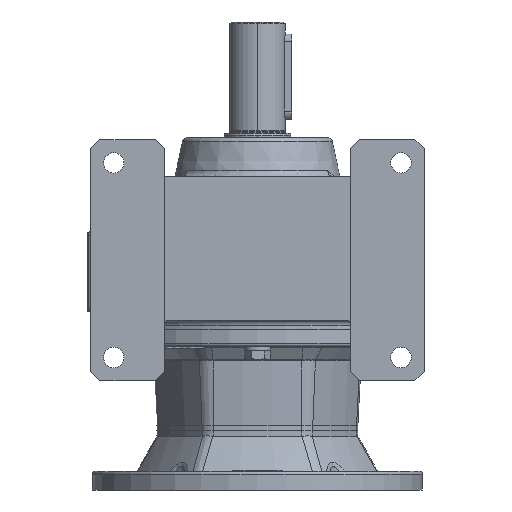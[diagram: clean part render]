
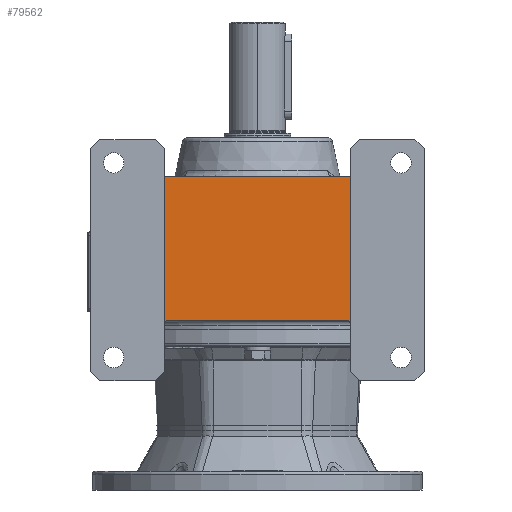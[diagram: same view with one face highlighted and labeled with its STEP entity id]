
A CAD part, front view. The second image highlights one B-rep face of the part: STEP entity #79562.
In plain terms, the highlighted planar face has unit normal (0, -1, 0).
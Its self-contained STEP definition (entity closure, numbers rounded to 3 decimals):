
#4549 = CIRCLE ( 'NONE', #6875, 3. ) ;
#5019 = CIRCLE ( 'NONE', #6863, 3. ) ;
#6862 = VECTOR ( 'NONE', #65327, 1000. ) ;
#6863 = AXIS2_PLACEMENT_3D ( 'NONE', #65269, #65273, #65274 ) ;
#6871 = VECTOR ( 'NONE', #65272, 1000. ) ;
#6872 = VECTOR ( 'NONE', #65286, 1000. ) ;
#6874 = VECTOR ( 'NONE', #65278, 1000. ) ;
#6875 = AXIS2_PLACEMENT_3D ( 'NONE', #65275, #65279, #65280 ) ;
#26970 = EDGE_CURVE ( 'NONE', #48518, #30989, #65270, .T. ) ;
#26971 = EDGE_CURVE ( 'NONE', #48518, #30991, #5019, .T. ) ;
#26972 = EDGE_CURVE ( 'NONE', #53535, #48525, #65276, .T. ) ;
#26973 = EDGE_CURVE ( 'NONE', #48527, #48525, #4549, .T. ) ;
#26975 = EDGE_CURVE ( 'NONE', #53535, #30989, #65284, .T. ) ;
#26984 = EDGE_CURVE ( 'NONE', #30991, #48527, #65325, .T. ) ;
#30989 = VERTEX_POINT ( 'NONE', #78103 ) ;
#30991 = VERTEX_POINT ( 'NONE', #78106 ) ;
#37996 = PLANE ( 'NONE',  #71682 ) ;
#37998 = CARTESIAN_POINT ( 'NONE',  ( -193.636, -135., -165. ) ) ;
#38000 = DIRECTION ( 'NONE',  ( 0., 1., 0. ) ) ;
#38002 = DIRECTION ( 'NONE',  ( 0., 0., 1. ) ) ;
#48518 = VERTEX_POINT ( 'NONE', #73336 ) ;
#48525 = VERTEX_POINT ( 'NONE', #73342 ) ;
#48527 = VERTEX_POINT ( 'NONE', #73344 ) ;
#53535 = VERTEX_POINT ( 'NONE', #86734 ) ;
#65269 = CARTESIAN_POINT ( 'NONE',  ( -97., -135., -158. ) ) ;
#65270 = LINE ( 'NONE', #65271, #6871 ) ;
#65271 = CARTESIAN_POINT ( 'NONE',  ( -100., -135., -30. ) ) ;
#65272 = DIRECTION ( 'NONE',  ( 0., 0., 1. ) ) ;
#65273 = DIRECTION ( 'NONE',  ( 0., 1., 0. ) ) ;
#65274 = DIRECTION ( 'NONE',  ( 0., 0., 1. ) ) ;
#65275 = CARTESIAN_POINT ( 'NONE',  ( 97., -135., -158. ) ) ;
#65276 = LINE ( 'NONE', #65277, #6874 ) ;
#65277 = CARTESIAN_POINT ( 'NONE',  ( 100., -135., -30. ) ) ;
#65278 = DIRECTION ( 'NONE',  ( 0., 0., -1. ) ) ;
#65279 = DIRECTION ( 'NONE',  ( 0., 1., 0. ) ) ;
#65280 = DIRECTION ( 'NONE',  ( 0., 0., 1. ) ) ;
#65284 = LINE ( 'NONE', #65285, #6872 ) ;
#65285 = CARTESIAN_POINT ( 'NONE',  ( -193.636, -135., 0. ) ) ;
#65286 = DIRECTION ( 'NONE',  ( -1., 0., 0. ) ) ;
#65325 = LINE ( 'NONE', #65326, #6862 ) ;
#65326 = CARTESIAN_POINT ( 'NONE',  ( -180., -135., -155. ) ) ;
#65327 = DIRECTION ( 'NONE',  ( 1., 0., 0. ) ) ;
#71678 = FACE_OUTER_BOUND ( 'NONE', #86174, .T. ) ;
#71682 = AXIS2_PLACEMENT_3D ( 'NONE', #37998, #38000, #38002 ) ;
#73336 = CARTESIAN_POINT ( 'NONE',  ( -100., -135., -158. ) ) ;
#73342 = CARTESIAN_POINT ( 'NONE',  ( 100., -135., -158. ) ) ;
#73344 = CARTESIAN_POINT ( 'NONE',  ( 97., -135., -155. ) ) ;
#78103 = CARTESIAN_POINT ( 'NONE',  ( -100., -135., 0. ) ) ;
#78106 = CARTESIAN_POINT ( 'NONE',  ( -97., -135., -155. ) ) ;
#79562 = ADVANCED_FACE ( 'NONE', ( #71678 ), #37996, .F. ) ;
#86174 = EDGE_LOOP ( 'NONE', ( #88288, #88290, #88289, #88291, #88292, #88293 ) ) ;
#86734 = CARTESIAN_POINT ( 'NONE',  ( 100., -135., 0. ) ) ;
#88288 = ORIENTED_EDGE ( 'NONE', *, *, #26970, .F. ) ;
#88289 = ORIENTED_EDGE ( 'NONE', *, *, #26984, .T. ) ;
#88290 = ORIENTED_EDGE ( 'NONE', *, *, #26971, .T. ) ;
#88291 = ORIENTED_EDGE ( 'NONE', *, *, #26973, .T. ) ;
#88292 = ORIENTED_EDGE ( 'NONE', *, *, #26972, .F. ) ;
#88293 = ORIENTED_EDGE ( 'NONE', *, *, #26975, .T. ) ;
